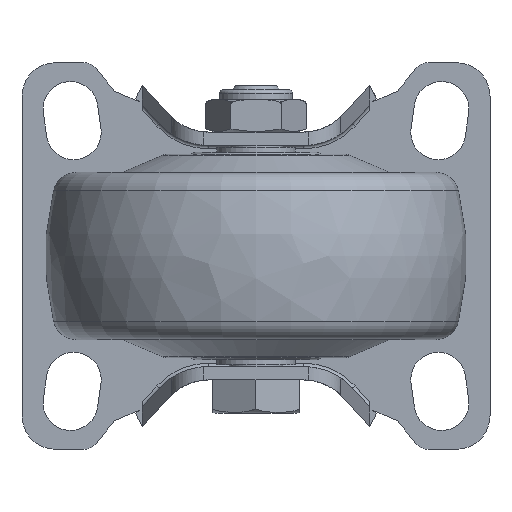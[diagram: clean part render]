
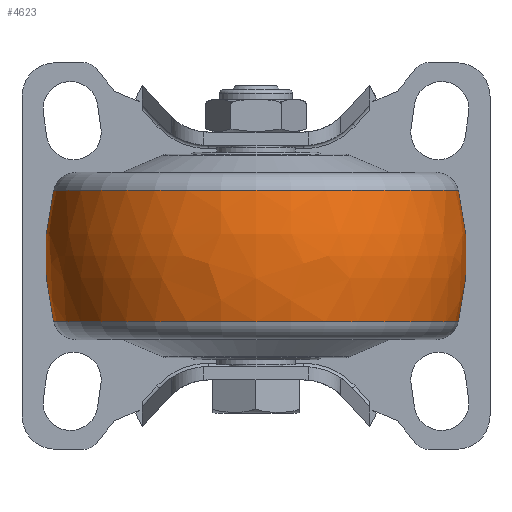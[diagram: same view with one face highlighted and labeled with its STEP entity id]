
A CAD part, front view. The second image highlights one B-rep face of the part: STEP entity #4623.
In plain terms, the highlighted free-form (B-spline) face has degree [3, 3] with [7, 4] control points.
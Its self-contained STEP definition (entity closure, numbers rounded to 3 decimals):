
#4109=CARTESIAN_POINT('',(0.,-8.5,0.));
#4110=DIRECTION('',(0.,0.,1.));
#4111=DIRECTION('',(0.247,0.969,0.));
#4112=AXIS2_PLACEMENT_3D('',#4109,#4110,#4111);
#4114=CARTESIAN_POINT('',(0.,8.5,0.));
#4115=DIRECTION('',(0.,0.,-1.));
#4116=DIRECTION('',(0.247,-0.969,0.));
#4117=AXIS2_PLACEMENT_3D('',#4114,#4115,#4116);
#4119=CARTESIAN_POINT('',(9.863,0.,0.));
#4120=DIRECTION('',(-1.,0.,0.));
#4121=DIRECTION('',(0.,1.,0.));
#4122=AXIS2_PLACEMENT_3D('',#4119,#4120,#4121);
#4144=CARTESIAN_POINT('',(-9.863,0.,0.));
#4145=DIRECTION('',(-1.,0.,0.));
#4146=DIRECTION('',(0.,1.,0.));
#4147=AXIS2_PLACEMENT_3D('',#4144,#4145,#4146);
#4274=CARTESIAN_POINT('',(9.863,30.265,0.));
#4276=VERTEX_POINT('',#4274);
#4277=CARTESIAN_POINT('',(-9.863,30.265,0.));
#4278=VERTEX_POINT('',#4277);
#4314=CARTESIAN_POINT('',(9.863,-30.265,0.));
#4316=VERTEX_POINT('',#4314);
#4317=CARTESIAN_POINT('',(-9.863,-30.265,0.));
#4318=VERTEX_POINT('',#4317);
#4585=CARTESIAN_POINT('',(-10.249,-30.105,
1.894));
#4586=CARTESIAN_POINT('',(-3.494,-31.892,
2.006));
#4587=CARTESIAN_POINT('',(3.494,-31.892,2.006));
#4588=CARTESIAN_POINT('',(10.249,-30.105,1.894));
#4589=CARTESIAN_POINT('',(-10.249,-31.271,
-16.633));
#4590=CARTESIAN_POINT('',(-3.494,-33.127,
-17.62));
#4591=CARTESIAN_POINT('',(3.494,-33.127,
-17.62));
#4592=CARTESIAN_POINT('',(10.249,-31.271,
-16.633));
#4593=CARTESIAN_POINT('',(-10.249,-18.563,
-30.165));
#4594=CARTESIAN_POINT('',(-3.494,-19.665,
-31.955));
#4595=CARTESIAN_POINT('',(3.494,-19.665,
-31.955));
#4596=CARTESIAN_POINT('',(10.249,-18.563,
-30.165));
#4597=CARTESIAN_POINT('',(-10.249,0.,-30.165));
#4598=CARTESIAN_POINT('',(-3.494,0.,-31.955));
#4599=CARTESIAN_POINT('',(3.494,0.,-31.955));
#4600=CARTESIAN_POINT('',(10.249,0.,-30.165));
#4601=CARTESIAN_POINT('',(-10.249,18.563,
-30.165));
#4602=CARTESIAN_POINT('',(-3.494,19.665,
-31.955));
#4603=CARTESIAN_POINT('',(3.494,19.665,-31.955));
#4604=CARTESIAN_POINT('',(10.249,18.563,-30.165));
#4605=CARTESIAN_POINT('',(-10.249,31.271,
-16.633));
#4606=CARTESIAN_POINT('',(-3.494,33.127,
-17.62));
#4607=CARTESIAN_POINT('',(3.494,33.127,-17.62));
#4608=CARTESIAN_POINT('',(10.249,31.271,-16.633));
#4609=CARTESIAN_POINT('',(-10.249,30.105,1.894));
#4610=CARTESIAN_POINT('',(-3.494,31.892,2.006));
#4611=CARTESIAN_POINT('',(3.494,31.892,2.006));
#4612=CARTESIAN_POINT('',(10.249,30.105,1.894));
#4613=(BOUNDED_SURFACE()B_SPLINE_SURFACE(3,3,((#4585,#4586,#4587,#4588),(#4589,
#4590,#4591,#4592),(#4593,#4594,#4595,#4596),(#4597,#4598,#4599,#4600),(#4601,
#4602,#4603,#4604),(#4605,#4606,#4607,#4608),(#4609,#4610,#4611,#4612)),
.UNSPECIFIED.,.F.,.F.,.F.)B_SPLINE_SURFACE_WITH_KNOTS((4,3,4),(4,4),(0.,1.,
2.),(0.,1.),.UNSPECIFIED.)GEOMETRIC_REPRESENTATION_ITEM()RATIONAL_B_SPLINE_SURFACE(((1.207,1.181,1.181,1.207),(
0.953,0.932,0.932,0.953),(
0.953,0.932,0.932,0.953),(
1.207,1.181,1.181,1.207),(
0.953,0.932,0.932,0.953),(
0.953,0.932,0.932,0.953),(
1.207,1.181,1.181,1.207)))REPRESENTATION_ITEM('')SURFACE());
#4615=ORIENTED_EDGE('',*,*,#4614,.T.);
#4617=ORIENTED_EDGE('',*,*,#4616,.T.);
#4619=ORIENTED_EDGE('',*,*,#4618,.F.);
#4620=ORIENTED_EDGE('',*,*,#4578,.F.);
#4621=EDGE_LOOP('',(#4615,#4617,#4619,#4620));
#4622=FACE_OUTER_BOUND('',#4621,.F.);
#4113=CIRCLE('',#4112,40.);
#4118=CIRCLE('',#4117,40.);
#4123=CIRCLE('',#4122,30.265);
#4148=CIRCLE('',#4147,30.265);
#4578=EDGE_CURVE('',#4276,#4316,#4123,.T.);
#4614=EDGE_CURVE('',#4276,#4278,#4113,.T.);
#4616=EDGE_CURVE('',#4278,#4318,#4148,.T.);
#4618=EDGE_CURVE('',#4316,#4318,#4118,.T.);
#4623=ADVANCED_FACE('',(#4622),#4613,.T.);
